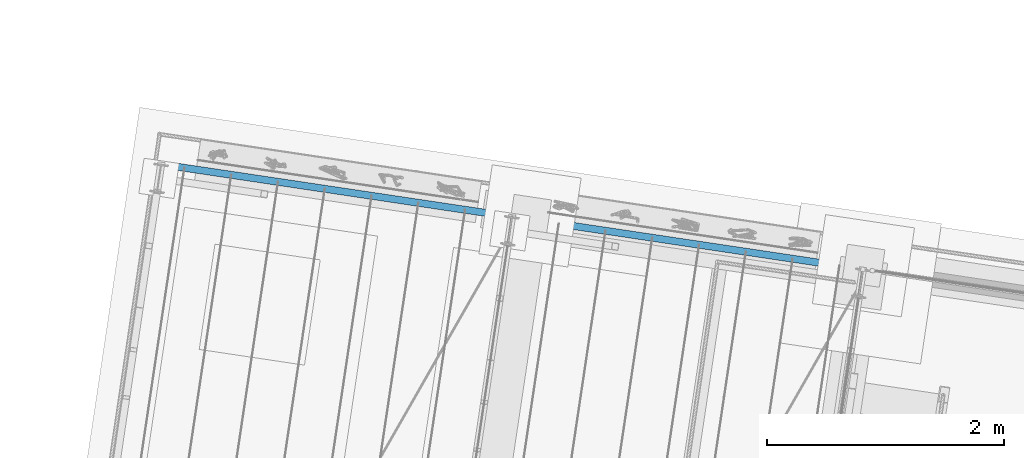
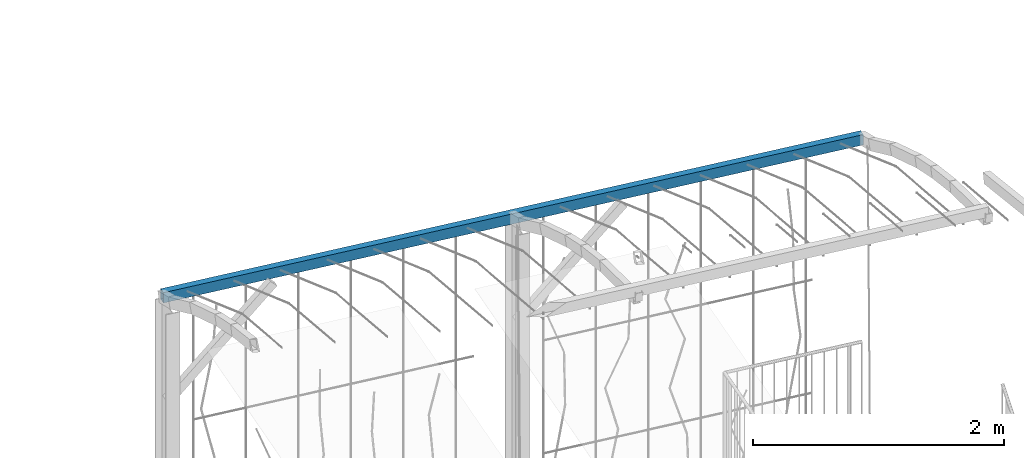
# One storey, part 39 of 143: 1 beam, 1 element without a shape of its own.
"""IFC4 building model written with IfcOpenShell, lengths in metres."""

from ifc_helpers import new_model, si_unit, direction, frame, origin_with_axes, place, context, subcontext, project, spatial, hollow_rectangle, extrude, material, material_profile, profile_set, profile_usage, type_object, element, aggregate, save


model = new_model("IFC4")

# Units and contexts
model_context = context("Model", 3, precision=1e-05, world=origin_with_axes(), true_north=direction((0.0, 1.0)))
body_context = subcontext(model_context, "Body", "Model", "MODEL_VIEW")
ifc_project = project(units=[si_unit("VOLUMEUNIT", "CUBIC_METRE"), si_unit("LENGTHUNIT", "METRE"), si_unit("AREAUNIT", "SQUARE_METRE")], contexts=[model_context])

# Site, building, storey
site_placement = place(None, origin_with_axes())
site = spatial("IfcSite", under=ifc_project, at=site_placement, Name="Lares · Rua das Mercês · artigo 4771")
building_placement = place(site_placement, frame((15.0, 9.7, 15.8), z_axis=(0.0, 0.0, 1.0), x_axis=(0.989015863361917, -0.147809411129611, 0.0)))
building = spatial("IfcBuilding", under=site, at=building_placement, Name="Casa Sobreposta")
storey_placement = place(building_placement, origin_with_axes())
storey = spatial("IfcBuildingStorey", under=building, at=storey_placement, Name="00 · Habitação e estacionamento", Elevation=15.8)

# Assembly, beam
assembly_placement = place(storey_placement, origin_with_axes())
assembly = element("IfcElementAssembly", 1, at=assembly_placement, inside=storey, Name="Pérgola · prolongamento da estufa 6 m", ObjectType="PERGOLA_GREENHOUSE_EXTENSION", PredefinedType="USERDEFINED")
ifc_material = material(Name="Aço pintado / Stahl lackiert", Category="steel")
ifc_material_profile = material_profile(ifc_material, hollow_rectangle(XDim=0.06, YDim=0.1, WallThickness=0.004))
ifc_profile_set = profile_set([ifc_material_profile], Name="RHS100x60x4")
ifc_profile_usage = profile_usage(ifc_profile_set)
beam_type = type_object("IfcBeamType", Name="RHS100x60x4 / steel", PredefinedType="NOTDEFINED", material=ifc_profile_set)
beam_placement = place(assembly_placement, frame((-6.0, 6.39999999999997, 6.23430000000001), z_axis=(1.0, 0.0, 0.0), x_axis=(0.0, -1.0, 0.0)))
beam = element("IfcBeam", 2, at=beam_placement, type_object=beam_type, material=ifc_profile_usage, Name="Pérgola · terça", context=body_context, shape_type="SweptSolid", body=[
    extrude(hollow_rectangle(XDim=0.06, YDim=0.1, WallThickness=0.004), origin_with_axes(), (0.0, 0.0, 1.0), 6.0),
])
aggregate(assembly, [beam])

save(model, "model.ifc")
